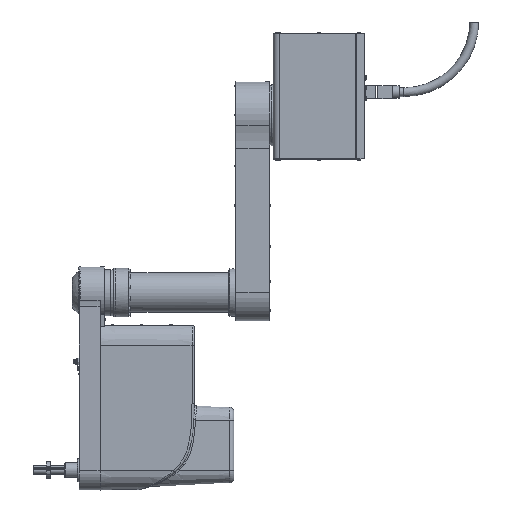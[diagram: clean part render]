
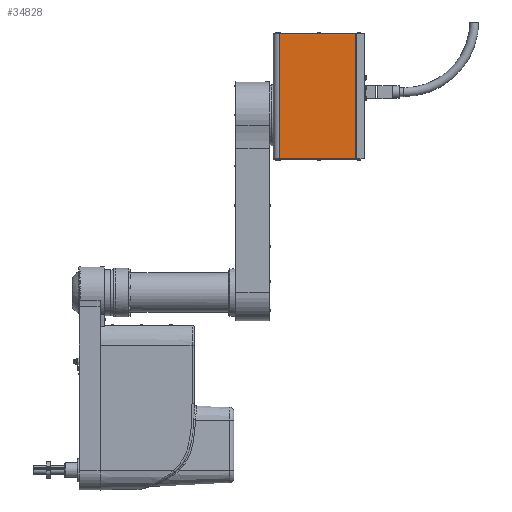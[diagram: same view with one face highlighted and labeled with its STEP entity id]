
A CAD part, left-side view. The second image highlights one B-rep face of the part: STEP entity #34828.
In plain terms, the highlighted planar face has unit normal (-1, 0, 0).
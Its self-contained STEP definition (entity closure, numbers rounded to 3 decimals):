
#1439 = FACE_OUTER_BOUND ( 'NONE', #29244, .T. ) ;
#4799 = LINE ( 'NONE', #74034, #29887 ) ;
#15463 = CARTESIAN_POINT ( 'NONE',  ( -105., 2., 0. ) ) ;
#15703 = LINE ( 'NONE', #69051, #52870 ) ;
#19296 = CARTESIAN_POINT ( 'NONE',  ( -105., 185., 300. ) ) ;
#20378 = CARTESIAN_POINT ( 'NONE',  ( -105., 200., 0. ) ) ;
#20919 = CARTESIAN_POINT ( 'NONE',  ( -105., 200., 300. ) ) ;
#27298 = DIRECTION ( 'NONE',  ( 0., -1., 0. ) ) ;
#27879 = DIRECTION ( 'NONE',  ( 0., 1., 0. ) ) ;
#28585 = CARTESIAN_POINT ( 'NONE',  ( -105., 2., 300. ) ) ;
#29244 = EDGE_LOOP ( 'NONE', ( #42287, #32864, #68339, #58586 ) ) ;
#29887 = VECTOR ( 'NONE', #46334, 1000. ) ;
#32864 = ORIENTED_EDGE ( 'NONE', *, *, #40119, .F. ) ;
#33246 = VERTEX_POINT ( 'NONE', #38007 ) ;
#34828 = ADVANCED_FACE ( 'NONE', ( #1439 ), #83350, .F. ) ;
#37189 = VECTOR ( 'NONE', #89062, 1000. ) ;
#38007 = CARTESIAN_POINT ( 'NONE',  ( -105., 185., 0. ) ) ;
#39370 = LINE ( 'NONE', #19296, #37189 ) ;
#40119 = EDGE_CURVE ( 'NONE', #33246, #86061, #39370, .T. ) ;
#40790 = VERTEX_POINT ( 'NONE', #28585 ) ;
#42287 = ORIENTED_EDGE ( 'NONE', *, *, #55890, .F. ) ;
#46334 = DIRECTION ( 'NONE',  ( 0., 0., -1. ) ) ;
#46577 = LINE ( 'NONE', #20378, #83621 ) ;
#49488 = CARTESIAN_POINT ( 'NONE',  ( -105., 185., 300. ) ) ;
#51299 = VERTEX_POINT ( 'NONE', #15463 ) ;
#52870 = VECTOR ( 'NONE', #27298, 1000. ) ;
#55890 = EDGE_CURVE ( 'NONE', #86061, #40790, #15703, .T. ) ;
#58586 = ORIENTED_EDGE ( 'NONE', *, *, #65316, .F. ) ;
#62153 = DIRECTION ( 'NONE',  ( 0., 1., 0. ) ) ;
#65316 = EDGE_CURVE ( 'NONE', #40790, #51299, #4799, .T. ) ;
#68339 = ORIENTED_EDGE ( 'NONE', *, *, #79008, .F. ) ;
#69051 = CARTESIAN_POINT ( 'NONE',  ( -105., 200., 300. ) ) ;
#69644 = DIRECTION ( 'NONE',  ( 1., 0., 0. ) ) ;
#70347 = AXIS2_PLACEMENT_3D ( 'NONE', #20919, #69644, #27879 ) ;
#74034 = CARTESIAN_POINT ( 'NONE',  ( -105., 2., 300. ) ) ;
#79008 = EDGE_CURVE ( 'NONE', #51299, #33246, #46577, .T. ) ;
#83350 = PLANE ( 'NONE',  #70347 ) ;
#83621 = VECTOR ( 'NONE', #62153, 1000. ) ;
#86061 = VERTEX_POINT ( 'NONE', #49488 ) ;
#89062 = DIRECTION ( 'NONE',  ( 0., 0., 1. ) ) ;
